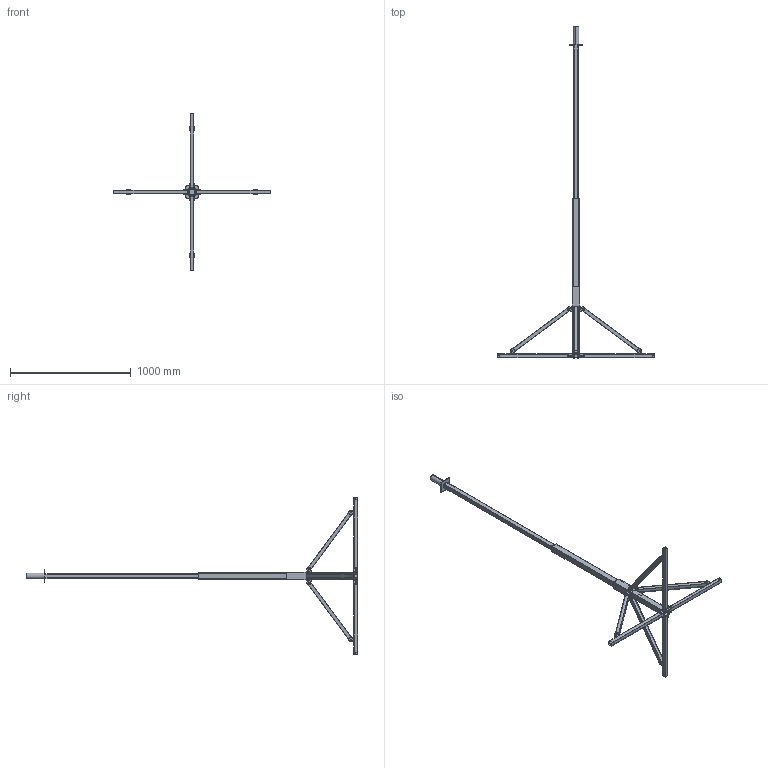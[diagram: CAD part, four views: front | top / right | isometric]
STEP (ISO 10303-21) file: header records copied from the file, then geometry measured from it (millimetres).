
FILE_DESCRIPTION (( 'STEP AP203' ), '1' );
FILE_NAME ('pirana long STEP.STEP', '2013-06-30T23:20:08', ( 'Rob' ), ( '' ), 'SwSTEP 2.0', 'SolidWorks 2013', '' );
FILE_SCHEMA (( 'CONFIG_CONTROL_DESIGN' ));
Length unit declared in the file: inch
Products named in the file (6): Bottom of quadpod; Bottom slider; leg piece bot; leg piece top; Top piece; pirana long STEP
Assembly tree (11 placements, depth 2):
  pirana long STEP
    Bottom of quadpod
    Bottom slider
    leg piece bot  x4
    leg piece top  x4
    Top piece
Bounding box: 1294.13 x 2747.96 x 1294.14 mm (x, y, z)
Volume: 3654756.1 mm3; surface area: 2245424.5 mm2
Topology: 16 solids, 16 shells, 398 faces, 1070 edges, 708 vertices
Faces by surface type: plane 228, cylinder 122, bspline 48
Entity records: 8238 total; most frequent: CARTESIAN_POINT 1728, ORIENTED_EDGE 1228, DIRECTION 1070, EDGE_CURVE 614, LINE 418, VECTOR 418, VERTEX_POINT 408, AXIS2_PLACEMENT_3D 326
